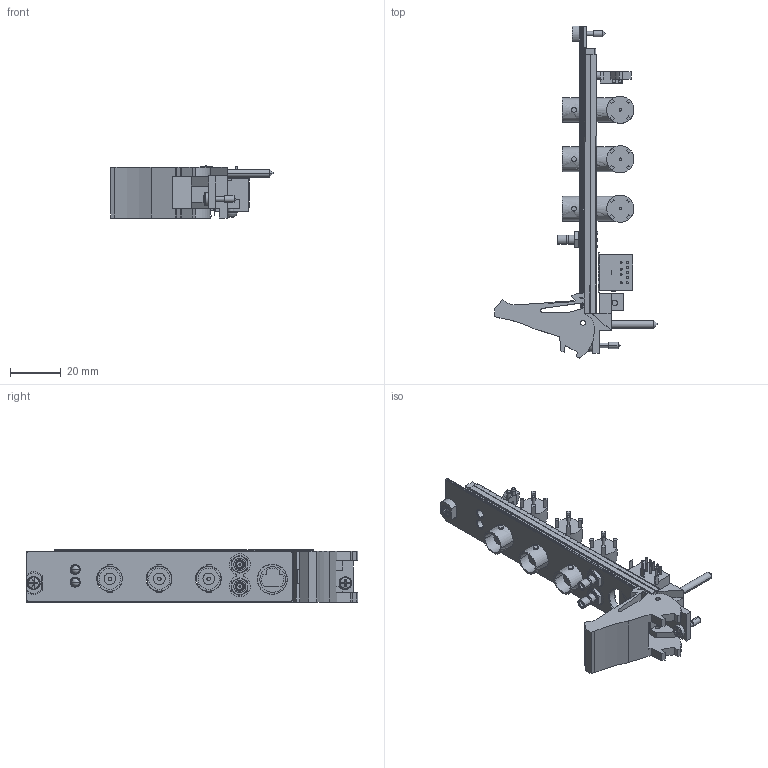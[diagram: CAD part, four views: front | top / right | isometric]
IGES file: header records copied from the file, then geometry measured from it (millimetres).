
Start section:  PTC IGES file: cu_pxi-5922.igs
Global section: file name: cu_pxi-5922.igs; native system: Pro/ENGINEER by Parametric Technology Corporation; preprocessor: 2006080; author: jjorden; organization: Unknown; date: 091111.124247; units: inch
Bounding box: 63.73 x 130.52 x 20.49 mm (x, y, z)
Surface area: 22179.2 mm2 (no closed solid volume)
Topology: 0 solids, 0 shells, 888 faces, 4570 edges, 4558 vertices
Faces by surface type: bspline 552, revolution 336
